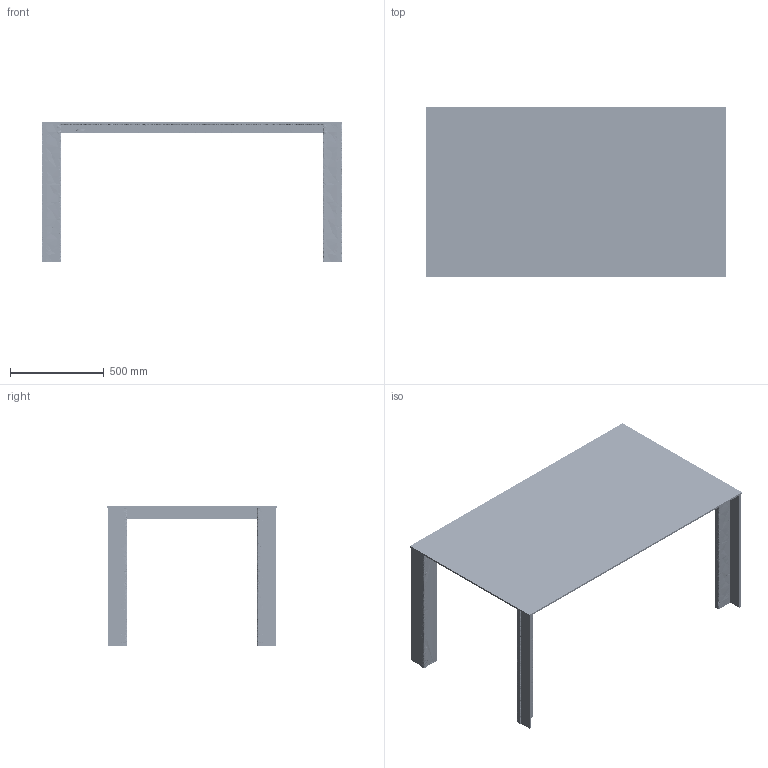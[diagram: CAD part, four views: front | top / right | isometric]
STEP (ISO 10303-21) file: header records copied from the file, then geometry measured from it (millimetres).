
FILE_DESCRIPTION(/* description */ (''),/* implementation_level */ '2;1');
FILE_NAME(/* name */ '10902 - Tale 160x90',/* time_stamp */ '2012-07-09T14:10:36+02:00',/* author */ (''),/* organization */ (''),/* preprocessor_version */ 'ST-DEVELOPER v10',/* originating_system */ '',/* authorisation */ '');
FILE_SCHEMA (('CONFIG_CONTROL_DESIGN'));
Length unit declared in the file: millimetre
Products named in the file (1): 1
Bounding box: 1600 x 900 x 748 mm (x, y, z)
Volume: 26063663.3 mm3; surface area: 8160575.5 mm2
Topology: 29 solids, 29 shells, 308 faces, 696 edges, 446 vertices
Faces by surface type: bspline 200, plane 108
Entity records: 21320 total; most frequent: CARTESIAN_POINT 16868, ORIENTED_EDGE 1360, EDGE_CURVE 680, VERTEX_POINT 446, EDGE_LOOP 400, B_SPLINE_CURVE_WITH_KNOTS 372, ADVANCED_FACE 308, FACE_OUTER_BOUND 308
